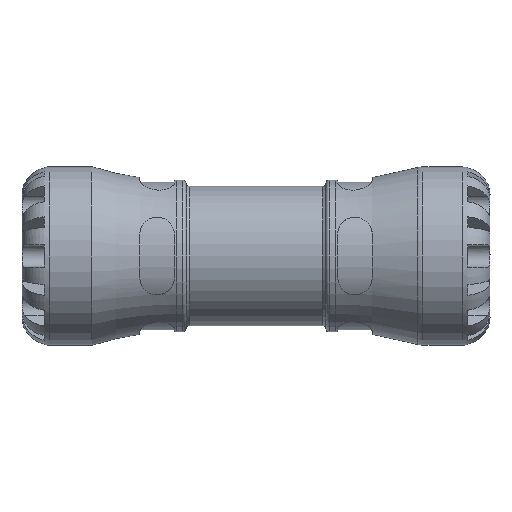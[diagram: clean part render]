
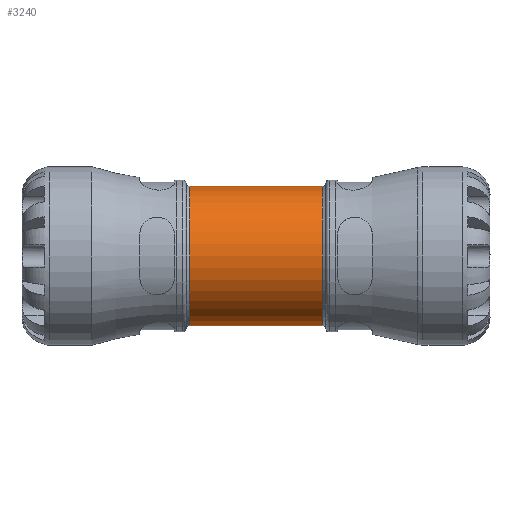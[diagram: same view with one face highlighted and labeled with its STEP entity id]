
A CAD part, front view. The second image highlights one B-rep face of the part: STEP entity #3240.
In plain terms, the highlighted cylindrical face has radius 22.62 mm (diameter 45.24 mm), a full revolution.
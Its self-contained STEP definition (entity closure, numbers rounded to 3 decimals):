
#467=FACE_BOUND('',#784,.T.);
#468=FACE_BOUND('',#785,.T.);
#510=CYLINDRICAL_SURFACE('',#3445,22.62);
#580=FACE_OUTER_BOUND('',#783,.T.);
#783=EDGE_LOOP('',(#2108));
#784=EDGE_LOOP('',(#2109));
#785=EDGE_LOOP('',(#2110));
#1026=B_SPLINE_CURVE_WITH_KNOTS('',3,(#4874,#4875,#4876,#4877,#4878,#4879,
#4880,#4881,#4882,#4883,#4884,#4885,#4886,#4887,#4888,#4889,#4890,#4891,
#4892,#4893,#4894,#4895,#4896),.UNSPECIFIED.,.T.,.F.,(4,1,1,1,1,1,1,1,1,
1,1,1,1,1,1,1,1,1,1,1,4),(-9.512,-9.173,-8.833,
-8.153,-7.474,-7.134,-6.795,
-6.115,-5.436,-4.983,-4.53,
-4.077,-3.624,-3.171,-2.718,
-2.378,-2.038,-1.359,-0.679,
-0.34,0.),.UNSPECIFIED.);
#1158=CIRCLE('',#3446,22.62);
#1159=CIRCLE('',#3447,22.62);
#1331=VERTEX_POINT('',#4848);
#1334=VERTEX_POINT('',#4901);
#1335=VERTEX_POINT('',#4903);
#1638=EDGE_CURVE('',#1331,#1331,#1026,.T.);
#1640=EDGE_CURVE('',#1334,#1334,#1158,.T.);
#1641=EDGE_CURVE('',#1335,#1335,#1159,.T.);
#2108=ORIENTED_EDGE('',*,*,#1640,.F.);
#2109=ORIENTED_EDGE('',*,*,#1641,.F.);
#2110=ORIENTED_EDGE('',*,*,#1638,.F.);
#3240=ADVANCED_FACE('',(#580,#467,#468),#510,.T.);
#3445=AXIS2_PLACEMENT_3D('',#4900,#3826,#3827);
#3446=AXIS2_PLACEMENT_3D('',#4902,#3828,#3829);
#3447=AXIS2_PLACEMENT_3D('',#4904,#3830,#3831);
#3826=DIRECTION('center_axis',(1.,0.,0.));
#3827=DIRECTION('ref_axis',(0.,1.,0.));
#3828=DIRECTION('center_axis',(1.,0.,0.));
#3829=DIRECTION('ref_axis',(0.,1.,0.));
#3830=DIRECTION('center_axis',(-1.,0.,0.));
#3831=DIRECTION('ref_axis',(0.,1.,0.));
#4848=CARTESIAN_POINT('',(0.,15.961,-16.028));
#4874=CARTESIAN_POINT('Ctrl Pts',(0.,15.961,
-16.028));
#4875=CARTESIAN_POINT('Ctrl Pts',(-1.415,15.961,-16.028));
#4876=CARTESIAN_POINT('Ctrl Pts',(-4.246,16.267,-15.733));
#4877=CARTESIAN_POINT('Ctrl Pts',(-9.358,17.785,-14.08));
#4878=CARTESIAN_POINT('Ctrl Pts',(-14.519,20.377,-10.466));
#4879=CARTESIAN_POINT('Ctrl Pts',(-17.671,22.304,-5.004));
#4880=CARTESIAN_POINT('Ctrl Pts',(-18.343,22.726,0.));
#4881=CARTESIAN_POINT('Ctrl Pts',(-17.673,22.304,5.004));
#4882=CARTESIAN_POINT('Ctrl Pts',(-14.515,20.374,10.463));
#4883=CARTESIAN_POINT('Ctrl Pts',(-9.022,17.618,14.32));
#4884=CARTESIAN_POINT('Ctrl Pts',(-2.908,15.908,16.089));
#4885=CARTESIAN_POINT('Ctrl Pts',(2.908,15.903,16.089));
#4886=CARTESIAN_POINT('Ctrl Pts',(8.151,17.373,14.578));
#4887=CARTESIAN_POINT('Ctrl Pts',(12.483,19.322,11.949));
#4888=CARTESIAN_POINT('Ctrl Pts',(15.846,21.19,8.318));
#4889=CARTESIAN_POINT('Ctrl Pts',(17.783,22.374,4.163));
#4890=CARTESIAN_POINT('Ctrl Pts',(18.343,22.726,0.002));
#4891=CARTESIAN_POINT('Ctrl Pts',(17.671,22.304,-5.004));
#4892=CARTESIAN_POINT('Ctrl Pts',(14.519,20.377,-10.463));
#4893=CARTESIAN_POINT('Ctrl Pts',(9.359,17.785,-14.081));
#4894=CARTESIAN_POINT('Ctrl Pts',(4.246,16.267,-15.733));
#4895=CARTESIAN_POINT('Ctrl Pts',(1.415,15.961,-16.028));
#4896=CARTESIAN_POINT('Ctrl Pts',(0.,15.961,
-16.028));
#4900=CARTESIAN_POINT('Origin',(11.31,0.,0.));
#4901=CARTESIAN_POINT('',(21.478,-22.62,0.));
#4902=CARTESIAN_POINT('Origin',(21.478,0.,0.));
#4903=CARTESIAN_POINT('',(-21.478,-22.62,0.));
#4904=CARTESIAN_POINT('Origin',(-21.478,0.,0.));
